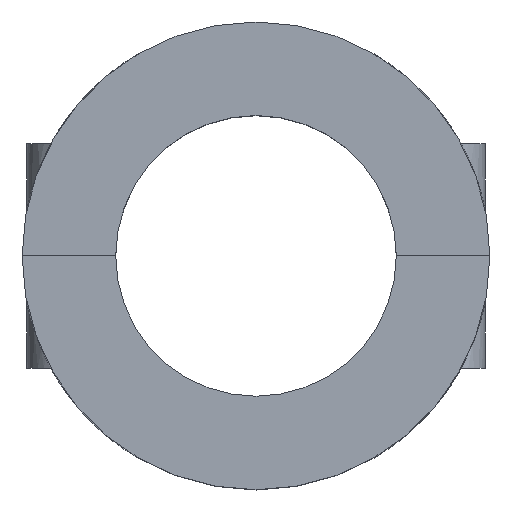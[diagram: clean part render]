
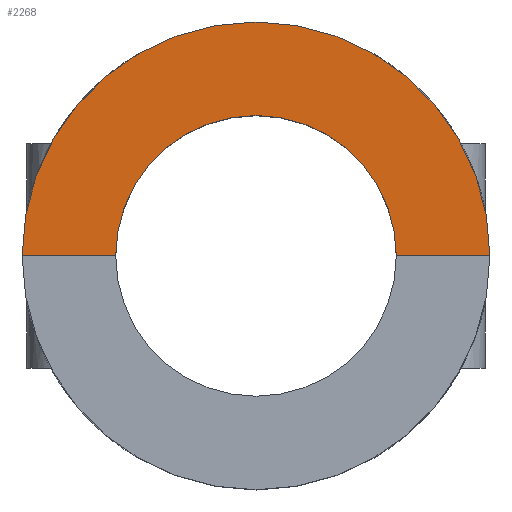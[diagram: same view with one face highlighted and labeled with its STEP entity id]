
A CAD part, top view. The second image highlights one B-rep face of the part: STEP entity #2268.
In plain terms, the highlighted planar face has unit normal (0, 0, 1).
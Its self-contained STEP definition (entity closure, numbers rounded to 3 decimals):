
#239 = DIRECTION ( 'NONE',  ( 0., 0., 1. ) ) ;
#341 = CARTESIAN_POINT ( 'NONE',  ( -15., 0.005, 7. ) ) ;
#528 = EDGE_LOOP ( 'NONE', ( #5229, #5442, #1453, #3109 ) ) ;
#537 = PLANE ( 'NONE',  #4798 ) ;
#879 = CARTESIAN_POINT ( 'NONE',  ( 25., 0.005, 7. ) ) ;
#967 = DIRECTION ( 'NONE',  ( -1., 0., 0. ) ) ;
#977 = CARTESIAN_POINT ( 'NONE',  ( 0., 0., 7. ) ) ;
#1122 = VERTEX_POINT ( 'NONE', #5196 ) ;
#1198 = DIRECTION ( 'NONE',  ( 1., 0., 0. ) ) ;
#1255 = CIRCLE ( 'NONE', #5814, 15. ) ;
#1453 = ORIENTED_EDGE ( 'NONE', *, *, #3994, .F. ) ;
#1476 = CIRCLE ( 'NONE', #3105, 25. ) ;
#1772 = LINE ( 'NONE', #5039, #4314 ) ;
#1775 = CARTESIAN_POINT ( 'NONE',  ( 0., 0.005, 7. ) ) ;
#2114 = CARTESIAN_POINT ( 'NONE',  ( 0., 0., 7. ) ) ;
#2268 = ADVANCED_FACE ( 'NONE', ( #2442 ), #537, .T. ) ;
#2442 = FACE_OUTER_BOUND ( 'NONE', #528, .T. ) ;
#2776 = CARTESIAN_POINT ( 'NONE',  ( 0., 0., 7. ) ) ;
#2849 = VERTEX_POINT ( 'NONE', #3603 ) ;
#3098 = VERTEX_POINT ( 'NONE', #341 ) ;
#3105 = AXIS2_PLACEMENT_3D ( 'NONE', #2776, #4444, #5109 ) ;
#3109 = ORIENTED_EDGE ( 'NONE', *, *, #4783, .F. ) ;
#3603 = CARTESIAN_POINT ( 'NONE',  ( 15., 0.005, 7. ) ) ;
#3763 = EDGE_CURVE ( 'NONE', #5459, #2849, #1772, .T. ) ;
#3795 = DIRECTION ( 'NONE',  ( 1., 0., 0. ) ) ;
#3994 = EDGE_CURVE ( 'NONE', #3098, #1122, #4534, .T. ) ;
#4202 = DIRECTION ( 'NONE',  ( 0., 0., 1. ) ) ;
#4314 = VECTOR ( 'NONE', #967, 1000. ) ;
#4444 = DIRECTION ( 'NONE',  ( 0., 0., 1. ) ) ;
#4534 = LINE ( 'NONE', #1775, #4810 ) ;
#4783 = EDGE_CURVE ( 'NONE', #2849, #3098, #1255, .T. ) ;
#4798 = AXIS2_PLACEMENT_3D ( 'NONE', #977, #4202, #3795 ) ;
#4810 = VECTOR ( 'NONE', #5477, 1000. ) ;
#5039 = CARTESIAN_POINT ( 'NONE',  ( -25., 0.005, 7. ) ) ;
#5109 = DIRECTION ( 'NONE',  ( 1., 0., 0. ) ) ;
#5196 = CARTESIAN_POINT ( 'NONE',  ( -25., 0.005, 7. ) ) ;
#5229 = ORIENTED_EDGE ( 'NONE', *, *, #3763, .F. ) ;
#5442 = ORIENTED_EDGE ( 'NONE', *, *, #5508, .T. ) ;
#5459 = VERTEX_POINT ( 'NONE', #879 ) ;
#5477 = DIRECTION ( 'NONE',  ( -1., 0., 0. ) ) ;
#5508 = EDGE_CURVE ( 'NONE', #5459, #1122, #1476, .T. ) ;
#5814 = AXIS2_PLACEMENT_3D ( 'NONE', #2114, #239, #1198 ) ;
